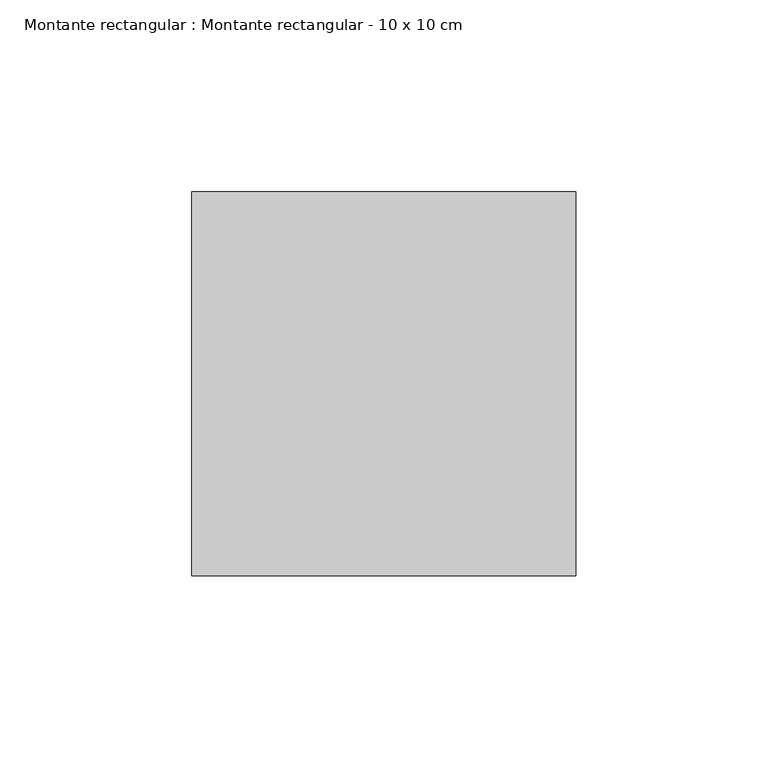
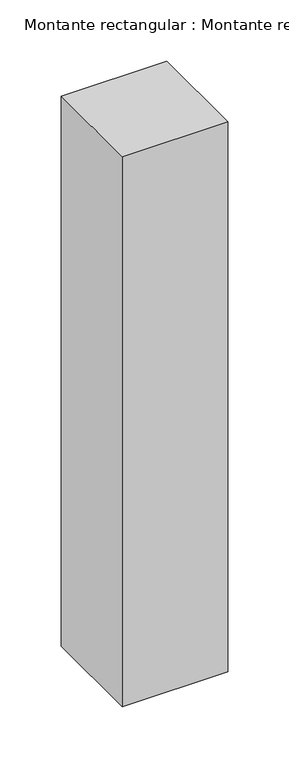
"""IFC4 building model written with IfcOpenShell, lengths in millimetres: member geometry, Montante rectangular : Montante rectangular - 10 x 10 cm."""

from ifc_helpers import new_model, si_unit, frame, origin, place, context, project, spatial, polyline, outline, extrude, source, transform, mapped, element, save


def montante_rectangular_montante_rectangular_10_x_10_cm_12f51ba4(model_context):
    return source(origin(), model_context, "Body", "SweptSolid", [
        extrude(outline(polyline([(0.0, -50.0), (-100.0, -50.0), (-100.0, 50.0), (0.0, 50.0), (0.0, -50.0)])), frame((0.0, 0.0, -550.0), z_axis=(0.0, 0.0, 1.0), x_axis=(1.0, 0.0, 0.0)), (0.0, 0.0, 1.0), 550.0),
    ])


if __name__ == "__main__":
    model = new_model("IFC4")
    model_context = context("Model", 3, world=origin())
    ifc_project = project(units=[si_unit("LENGTHUNIT", "METRE", prefix="MILLI")], contexts=[model_context])
    site = spatial("IfcSite", under=ifc_project)
    building = spatial("IfcBuilding", under=site)
    placement = place(None, origin())
    montante_rectangular_montante_rectangular_10_x_10_cm_shape = montante_rectangular_montante_rectangular_10_x_10_cm_12f51ba4(model_context)
    element("IfcMember", 1, ObjectType="Montante rectangular : Montante rectangular - 10 x 10 cm", at=placement, inside=building, context=model_context, shape_type="MappedRepresentation", body=[
        mapped(montante_rectangular_montante_rectangular_10_x_10_cm_shape, transform((0.0, 0.0, 0.0), x_axis=(1.0, 0.0, 0.0), y_axis=(0.0, 1.0, 0.0), z_axis=(0.0, 0.0, 1.0))),
    ])
    save(model, "model.ifc")
